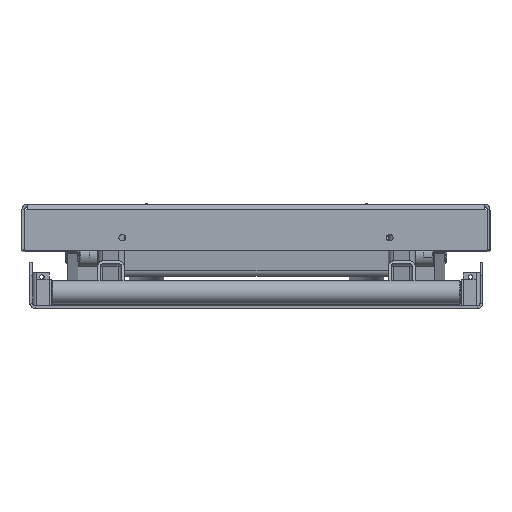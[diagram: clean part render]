
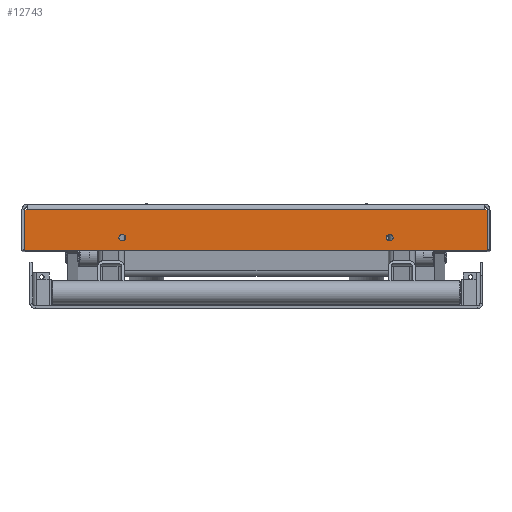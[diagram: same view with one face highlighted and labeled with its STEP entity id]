
A CAD part, left-side view. The second image highlights one B-rep face of the part: STEP entity #12743.
In plain terms, the highlighted planar face has unit normal (-1, 0, 0.001) as drawn and (1, 0, 0) by its records, which use the part's own axes.
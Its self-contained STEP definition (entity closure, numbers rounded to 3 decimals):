
#774=FACE_BOUND('',#2713,.T.);
#775=FACE_BOUND('',#2714,.T.);
#1186=PLANE('',#14286);
#1822=FACE_OUTER_BOUND('',#2712,.T.);
#2712=EDGE_LOOP('',(#11045,#11046,#11047,#11048,#11049,#11050,#11051,#11052));
#2713=EDGE_LOOP('',(#11053));
#2714=EDGE_LOOP('',(#11054));
#3579=LINE('',#20768,#4644);
#3897=LINE('',#21548,#4962);
#3899=LINE('',#21556,#4964);
#3901=LINE('',#21559,#4966);
#3906=LINE('',#21570,#4971);
#3908=LINE('',#21573,#4973);
#4644=VECTOR('',#16764,10.);
#4962=VECTOR('',#17496,10.);
#4964=VECTOR('',#17504,10.);
#4966=VECTOR('',#17508,10.);
#4971=VECTOR('',#17523,10.);
#4973=VECTOR('',#17527,10.);
#5477=CIRCLE('',#14062,2.);
#5482=CIRCLE('',#14070,2.);
#5537=CIRCLE('',#14255,5.);
#5539=CIRCLE('',#14259,5.);
#6300=VERTEX_POINT('',#20740);
#6301=VERTEX_POINT('',#20741);
#6312=VERTEX_POINT('',#20767);
#6313=VERTEX_POINT('',#20771);
#6556=VERTEX_POINT('',#21503);
#6558=VERTEX_POINT('',#21509);
#6566=VERTEX_POINT('',#21546);
#6567=VERTEX_POINT('',#21547);
#6570=VERTEX_POINT('',#21555);
#6571=VERTEX_POINT('',#21569);
#7731=EDGE_CURVE('',#6300,#6301,#5477,.T.);
#7744=EDGE_CURVE('',#6301,#6312,#3579,.T.);
#7746=EDGE_CURVE('',#6312,#6313,#5482,.T.);
#8105=EDGE_CURVE('',#6556,#6556,#5537,.T.);
#8107=EDGE_CURVE('',#6558,#6558,#5539,.T.);
#8125=EDGE_CURVE('',#6566,#6567,#3897,.T.);
#8129=EDGE_CURVE('',#6313,#6570,#3899,.T.);
#8131=EDGE_CURVE('',#6570,#6567,#3901,.T.);
#8138=EDGE_CURVE('',#6566,#6571,#3906,.T.);
#8140=EDGE_CURVE('',#6571,#6300,#3908,.T.);
#11045=ORIENTED_EDGE('',*,*,#7731,.F.);
#11046=ORIENTED_EDGE('',*,*,#8140,.F.);
#11047=ORIENTED_EDGE('',*,*,#8138,.F.);
#11048=ORIENTED_EDGE('',*,*,#8125,.T.);
#11049=ORIENTED_EDGE('',*,*,#8131,.F.);
#11050=ORIENTED_EDGE('',*,*,#8129,.F.);
#11051=ORIENTED_EDGE('',*,*,#7746,.F.);
#11052=ORIENTED_EDGE('',*,*,#7744,.F.);
#11053=ORIENTED_EDGE('',*,*,#8105,.T.);
#11054=ORIENTED_EDGE('',*,*,#8107,.T.);
#12743=ADVANCED_FACE('',(#1822,#774,#775),#1186,.F.);
#14062=AXIS2_PLACEMENT_3D('',#20742,#16742,#16743);
#14070=AXIS2_PLACEMENT_3D('',#20772,#16768,#16769);
#14255=AXIS2_PLACEMENT_3D('',#21504,#17442,#17443);
#14259=AXIS2_PLACEMENT_3D('',#21510,#17450,#17451);
#14286=AXIS2_PLACEMENT_3D('',#21574,#17528,#17529);
#16742=DIRECTION('center_axis',(-1.,0.,0.));
#16743=DIRECTION('ref_axis',(0.,-0.707,0.707));
#16764=DIRECTION('',(0.,1.,0.));
#16768=DIRECTION('center_axis',(-1.,0.,0.));
#16769=DIRECTION('ref_axis',(0.,0.707,0.707));
#17442=DIRECTION('center_axis',(-1.,0.,0.));
#17443=DIRECTION('ref_axis',(0.,0.,
-1.));
#17450=DIRECTION('center_axis',(-1.,0.,0.));
#17451=DIRECTION('ref_axis',(0.,0.,
-1.));
#17496=DIRECTION('',(0.,1.,0.));
#17504=DIRECTION('',(0.,0.,-1.));
#17508=DIRECTION('',(0.,-1.,0.));
#17523=DIRECTION('',(0.,-1.,0.));
#17527=DIRECTION('',(0.,0.,1.));
#17528=DIRECTION('center_axis',(-1.,0.,0.));
#17529=DIRECTION('ref_axis',(0.,0.,
1.));
#20740=CARTESIAN_POINT('',(450.,-345.929,68.));
#20741=CARTESIAN_POINT('',(450.,-343.929,70.));
#20742=CARTESIAN_POINT('Origin',(450.,-343.929,68.));
#20767=CARTESIAN_POINT('',(450.,343.929,70.));
#20768=CARTESIAN_POINT('',(450.,-345.929,70.));
#20771=CARTESIAN_POINT('',(450.,345.929,68.));
#20772=CARTESIAN_POINT('Origin',(450.,343.929,68.));
#21503=CARTESIAN_POINT('',(450.,200.,45.));
#21504=CARTESIAN_POINT('Origin',(450.,200.,50.));
#21509=CARTESIAN_POINT('',(450.,-200.,45.));
#21510=CARTESIAN_POINT('Origin',(450.,-200.,50.));
#21546=CARTESIAN_POINT('',(450.,-342.,8.));
#21547=CARTESIAN_POINT('',(450.,342.,8.));
#21548=CARTESIAN_POINT('',(450.,0.,8.));
#21555=CARTESIAN_POINT('',(450.,345.929,8.));
#21556=CARTESIAN_POINT('',(450.,345.929,8.));
#21559=CARTESIAN_POINT('',(450.,342.,8.));
#21569=CARTESIAN_POINT('',(450.,-345.929,8.));
#21570=CARTESIAN_POINT('',(450.,-342.,8.));
#21573=CARTESIAN_POINT('',(450.,-345.929,8.));
#21574=CARTESIAN_POINT('Origin',(450.,0.,34.958));
